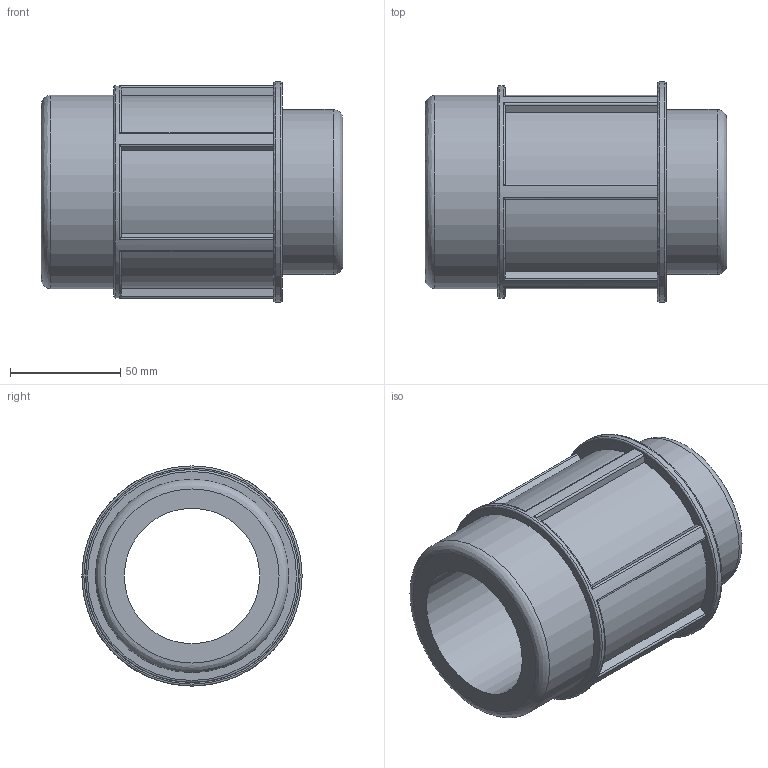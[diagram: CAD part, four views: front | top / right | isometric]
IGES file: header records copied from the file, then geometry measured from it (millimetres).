
Global section: file name: 078901075030.ipt; native system: Autodesk Inventor 2015; preprocessor: unknown; author: KIM; date: 20180409.130908; units: millimetre
Bounding box: 137 x 100 x 100 mm (x, y, z)
Volume: 400680.6 mm3; surface area: 77339.6 mm2
Topology: 1 solids, 1 shells, 57 faces, 163 edges, 111 vertices
Faces by surface type: plane 23, cylinder 22, revolution 12
Full cylindrical faces by diameter (mm): 75 x1, 87.884 x1, 96.672 x1, 100 x1
